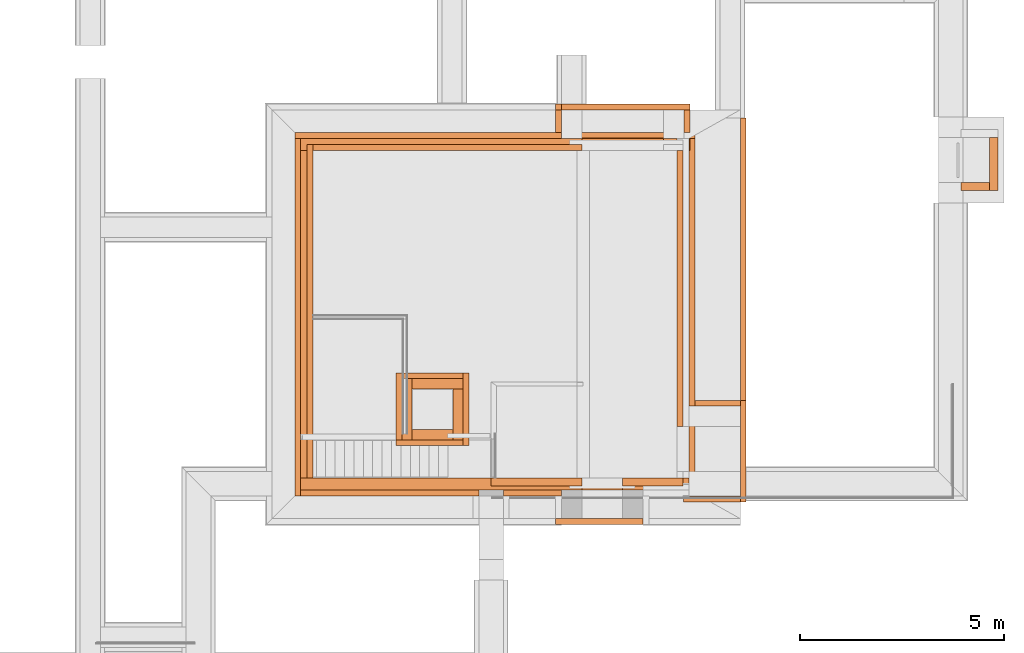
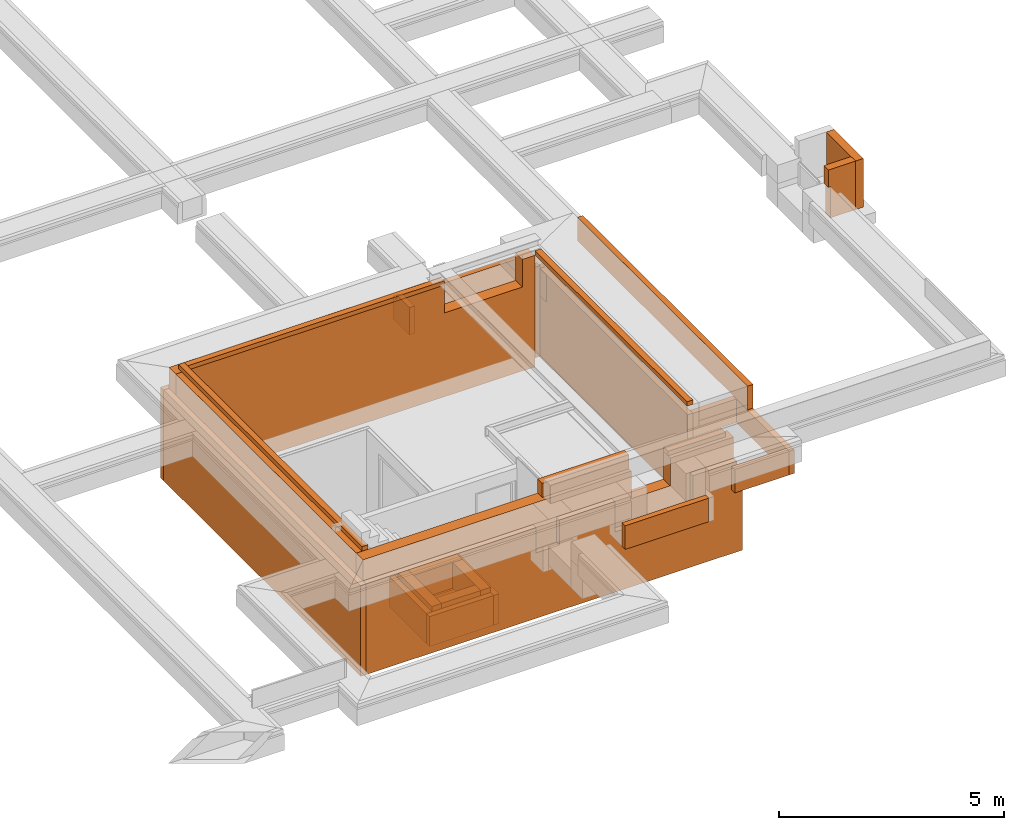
# One storey, part 9 of 11: 30 proxies, 2 openings.
"""IFC2X3 building model written with IfcOpenShell, lengths in millimetres."""

from ifc_helpers import new_model, entity, si_unit, converted_unit, derived_unit, money_unit, direction, frame, origin_with_axes, place, context, subcontext, project, spatial, faceted_brep, material, type_object, element, save


model = new_model("IFC2X3")

# Units and contexts
model_context = context("Model", 3, precision=0.01, world=origin_with_axes(), true_north=direction((0.0, 1.0)))
body_context = subcontext(model_context, "Body", "Model", "MODEL_VIEW")
ifc_project = project(units=[si_unit("LENGTHUNIT", "METRE", prefix="MILLI"), si_unit("AREAUNIT", "SQUARE_METRE"), si_unit("VOLUMEUNIT", "CUBIC_METRE"), converted_unit("PLANEANGLEUNIT", "DEGREE", entity("IfcPlaneAngleMeasure", 0.0174532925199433), si_unit("PLANEANGLEUNIT", "RADIAN"), dimensions=[0, 0, 0, 0, 0, 0, 0]), money_unit("EUR"), converted_unit("TIMEUNIT", "Year", entity("IfcTimeMeasure", 31556926.0), si_unit("TIMEUNIT", "SECOND"), dimensions=[0, 0, 1, 0, 0, 0, 0]), si_unit("MASSUNIT", "GRAM", prefix="KILO"), si_unit("THERMODYNAMICTEMPERATUREUNIT", "DEGREE_CELSIUS"), si_unit("LUMINOUSINTENSITYUNIT", "LUMEN"), si_unit("ENERGYUNIT", "JOULE", prefix="MEGA"), derived_unit("THERMALCONDUCTANCEUNIT", [(si_unit("POWERUNIT", "WATT"), 1), (si_unit("LENGTHUNIT", "METRE"), -1), (si_unit("THERMODYNAMICTEMPERATUREUNIT", "KELVIN"), -1)]), derived_unit("SPECIFICHEATCAPACITYUNIT", [(si_unit("ENERGYUNIT", "JOULE"), 1), (si_unit("MASSUNIT", "GRAM", prefix="KILO"), -1), (si_unit("THERMODYNAMICTEMPERATUREUNIT", "KELVIN"), -1)]), derived_unit("MASSDENSITYUNIT", [(si_unit("MASSUNIT", "GRAM", prefix="KILO"), 1), (si_unit("VOLUMEUNIT", "CUBIC_METRE"), -1)])], contexts=[model_context])

# Site, building, storey
site_placement = place(None, origin_with_axes())
site = spatial("IfcSite", under=ifc_project, at=site_placement, Name="Site", CompositionType="ELEMENT")
building_placement = place(site_placement, origin_with_axes())
building = spatial("IfcBuilding", under=site, at=building_placement, Name="Naam gebouw", CompositionType="ELEMENT")
storey_placement = place(building_placement, frame((0.0, 0.0, -3060.0), z_axis=(0.0, 0.0, 1.0), x_axis=(1.0, 0.0, 0.0)))
storey = spatial("IfcBuildingStorey", under=building, at=storey_placement, Name="Kelder", CompositionType="ELEMENT", Elevation=-3060.0)

# Proxy, opening
ifc_material_1 = material(Name="Beton gewapend C")
building_element_proxy_type_1 = type_object("IfcBuildingElementProxyType", Name="Beton gewapend C 300", PredefinedType="NOTDEFINED")
proxy_1_placement = place(storey_placement, frame((14000.00000000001, 4379.999999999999, -449.9999999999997), z_axis=(0.0, 0.0, 1.0), x_axis=(1.0, 0.0, 0.0)))
proxy_1 = element("IfcBuildingElementProxy", 1, at=proxy_1_placement, inside=storey, type_object=building_element_proxy_type_1, material=ifc_material_1, Name="f2- Met cement gebonden producten (alle vulmiddelen)_Wand-x", context=body_context, shape_type="Brep", body=[
    faceted_brep([(9500.000000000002, 300.0000000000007, 0.0), (0.0, 299.9999999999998, 0.0), (0.0, 299.9999999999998, 3025.0), (6875.000052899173, 300.0000000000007, 3025.0), (6875.000052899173, 300.0000000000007, 2275.0), (7875.000052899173, 300.0000000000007, 2275.0), (7875.000052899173, 300.0000000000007, 3025.0), (9500.000000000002, 300.0000000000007, 3025.0), (9500.000000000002, 300.0000000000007, 2375.0), (9500.000000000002, 300.0000000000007, 1735.0), (9500.000000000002, 0.0, 0.0), (0.0, 0.0, 0.0), (0.0, 0.0, 3025.0), (6875.000052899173, 0.0, 3025.0), (6875.000052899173, 0.0, 2275.0), (7875.000052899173, 0.0, 2275.0), (7875.000052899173, 0.0, 3025.0), (9500.000000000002, 0.0, 3025.0), (9500.000000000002, 0.0, 2375.0), (9500.000000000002, 0.0, 1735.0)], [[[0, 1, 2, 3, 4, 5, 6, 7, 8, 9]], [[1, 0, 10, 11]], [[2, 1, 11, 12]], [[13, 3, 2, 12]], [[4, 3, 13, 14]], [[5, 4, 14, 15]], [[16, 6, 5, 15]], [[6, 16, 17, 7]], [[17, 18, 8, 7]], [[19, 9, 8, 18]], [[0, 9, 19, 10]], [[18, 17, 16, 15, 14, 13, 12, 11, 10, 19]]]),
])
opening_1_placement = place(proxy_1_placement, frame((-14000.00000000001, -4379.999999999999, 3510.0), z_axis=(0.0, 0.0, 1.0), x_axis=(1.0, 0.0, 0.0)))
element("IfcOpeningElement", 2, at=opening_1_placement, cuts=proxy_1, Name="_Opening-x", context=body_context, shape_type="Brep", body=[
    faceted_brep([(20875.00005289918, 3939.999999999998, -1235.0), (20875.00005289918, 3939.999999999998, -484.9999999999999), (20875.00005289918, 4979.999999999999, -484.9999999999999), (20875.00005289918, 4979.999999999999, -1235.0), (21875.00005289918, 3939.999999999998, -1235.0), (21875.00005289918, 3939.999999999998, -484.9999999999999), (21875.00005289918, 4979.999999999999, -484.9999999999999), (21875.00005289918, 4979.999999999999, -1235.0)], [[[0, 1, 2, 3]], [[0, 4, 5, 1]], [[1, 5, 6, 2]], [[3, 2, 6, 7]], [[4, 0, 3, 7]], [[5, 4, 7, 6]]]),
])

proxy_2_placement = place(storey_placement, frame((23500.00000000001, 12980.0, -449.9999999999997), z_axis=(0.0, 0.0, 1.0), x_axis=(-1.0, 0.0, 0.0)))
proxy_2 = element("IfcBuildingElementProxy", 3, at=proxy_2_placement, inside=storey, type_object=building_element_proxy_type_1, material=ifc_material_1, Name="f2- Met cement gebonden producten (alle vulmiddelen)_Wand-x", context=body_context, shape_type="Brep", body=[
    faceted_brep([(624.9999471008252, 300.0000000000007, 3025.0), (300.0000000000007, 300.0000000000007, 3025.0), (300.0000000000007, 0.0, 3025.0), (624.9999471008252, 0.0, 3025.0), (9499.999999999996, 299.9999999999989, 0.0), (300.0000000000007, 300.0000000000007, 0.0), (624.9999471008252, 300.0000000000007, 2275.0), (2624.999947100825, 300.0000000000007, 2275.0), (2624.999947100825, 300.0000000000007, 3025.0), (9499.999999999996, 299.9999999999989, 3025.0), (300.0000000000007, 0.0, 0.0), (9499.999999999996, 0.0, 0.0), (9499.999999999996, 0.0, 3025.0), (2624.999947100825, 0.0, 3025.0), (2624.999947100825, 0.0, 2275.0), (624.9999471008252, 0.0, 2275.0)], [[[0, 1, 2, 3]], [[4, 5, 1, 0, 6, 7, 8, 9]], [[5, 10, 2, 1]], [[3, 2, 10, 11, 12, 13, 14, 15]], [[15, 6, 0, 3]], [[11, 10, 5, 4]], [[7, 6, 15, 14]], [[8, 7, 14, 13]], [[12, 9, 8, 13]], [[11, 4, 9, 12]]]),
])
opening_2_placement = place(proxy_2_placement, frame((23500.00000000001, 12980.0, 3510.0), z_axis=(0.0, 0.0, 1.0), x_axis=(-1.0, 0.0, 0.0)))
element("IfcOpeningElement", 4, at=opening_2_placement, cuts=proxy_2, Name="_Opening-x", context=body_context, shape_type="Brep", body=[
    faceted_brep([(22875.00005289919, 12540.0, -1235.0), (20875.00005289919, 12540.0, -1235.0), (20875.00005289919, 13280.0, -1235.0), (22875.00005289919, 13280.0, -1235.0), (22875.00005289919, 12540.0, -485.0), (20875.00005289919, 12540.0, -485.0), (20875.00005289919, 13280.0, -485.0), (22875.00005289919, 13280.0, -485.0)], [[[0, 1, 2, 3]], [[0, 4, 5, 1]], [[1, 5, 6, 2]], [[3, 2, 6, 7]], [[4, 0, 3, 7]], [[5, 4, 7, 6]]]),
])

# Proxies
proxy_3_placement = place(storey_placement, frame((14000.00000000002, 12980.0, -449.9999999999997), z_axis=(0.0, 0.0, 1.0), x_axis=(0.0, -1.0, 0.0)))
element("IfcBuildingElementProxy", 5, at=proxy_3_placement, inside=storey, type_object=building_element_proxy_type_1, material=ifc_material_1, Name="f2- Met cement gebonden producten (alle vulmiddelen)_Wand-x", context=body_context, shape_type="Brep", body=[
    faceted_brep([(8300.0, 299.9999999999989, 0.0), (299.9999999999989, 300.0000000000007, 0.0), (299.9999999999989, 300.0000000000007, 3025.0), (8300.0, 299.9999999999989, 3025.0), (8300.0, 0.0, 0.0), (299.9999999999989, 0.0, 0.0), (299.9999999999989, 0.0, 3025.0), (8300.0, 0.0, 3025.0)], [[[0, 1, 2, 3]], [[4, 5, 1, 0]], [[5, 6, 2, 1]], [[3, 2, 6, 7]], [[4, 0, 3, 7]], [[7, 6, 5, 4]]]),
])
building_element_proxy_type_2 = type_object("IfcBuildingElementProxyType", Name="Beton gewapend C 150", PredefinedType="NOTDEFINED")
proxy_4_placement = place(storey_placement, frame((14300.00000000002, 12680.0, 2575.0), z_axis=(0.0, 0.0, 1.0), x_axis=(0.0, -1.0, 0.0)))
element("IfcBuildingElementProxy", 6, at=proxy_4_placement, inside=storey, type_object=building_element_proxy_type_2, material=ifc_material_1, Name="f2- Met cement gebonden producten (alle vulmiddelen)_Wand-x", context=body_context, shape_type="Brep", body=[
    faceted_brep([(-150.0000000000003, -150.0000000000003, 119.9999999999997), (8000.0, -150.0000000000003, 119.9999999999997), (8000.0, 0.0, 119.9999999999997), (-150.0000000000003, 0.0, 119.9999999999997), (-150.0000000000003, -150.0000000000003, 0.0), (8000.0, -150.0000000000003, 0.0), (8000.0, 0.0, 0.0), (-150.0000000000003, 0.0, 0.0)], [[[0, 1, 2, 3]], [[4, 5, 1, 0]], [[2, 1, 5, 6]], [[3, 2, 6, 7]], [[4, 0, 3, 7]], [[7, 6, 5, 4]]]),
])
proxy_5_placement = place(storey_placement, frame((23200.00000000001, 5930.000000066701, 2575.0), z_axis=(0.0, 0.0, 1.0), x_axis=(0.0, 1.0, 0.0)))
element("IfcBuildingElementProxy", 7, at=proxy_5_placement, inside=storey, type_object=building_element_proxy_type_2, material=ifc_material_1, Name="f2- Met cement gebonden producten (alle vulmiddelen)_Wand-x", context=body_context, shape_type="Brep", body=[
    faceted_brep([(6749.999999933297, -149.9999999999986, 119.9999999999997), (6749.999999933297, 0.0, 119.9999999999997), (0.0, 0.0, 119.9999999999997), (0.0, -149.9999999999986, 119.9999999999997), (6749.999999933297, -149.9999999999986, 0.0), (6749.999999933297, 0.0, 0.0), (0.0, 0.0, 0.0), (0.0, -149.9999999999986, 0.0)], [[[0, 1, 2, 3]], [[1, 0, 4, 5]], [[1, 5, 6, 2]], [[7, 3, 2, 6]], [[4, 0, 3, 7]], [[5, 4, 7, 6]]]),
])
proxy_6_placement = place(storey_placement, frame((20875.00005289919, 12680.0, 2575.0), z_axis=(0.0, 0.0, 1.0), x_axis=(-1.0, 0.0, 0.0)))
element("IfcBuildingElementProxy", 8, at=proxy_6_placement, inside=storey, type_object=building_element_proxy_type_2, material=ifc_material_1, Name="f2- Met cement gebonden producten (alle vulmiddelen)_Wand-x", context=body_context, shape_type="Brep", body=[
    faceted_brep([(6575.00005289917, -150.0000000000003, 119.9999999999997), (6575.00005289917, 0.0, 119.9999999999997), (0.0, 0.0, 119.9999999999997), (0.0, -150.0000000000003, 119.9999999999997), (6575.00005289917, -150.0000000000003, 0.0), (6575.00005289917, 0.0, 0.0), (0.0, 0.0, 0.0), (0.0, -150.0000000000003, 0.0)], [[[0, 1, 2, 3]], [[1, 0, 4, 5]], [[1, 5, 6, 2]], [[7, 3, 2, 6]], [[4, 0, 3, 7]], [[5, 4, 7, 6]]]),
])
building_element_proxy_type_3 = type_object("IfcBuildingElementProxyType", Name="Beton gewapend C 200", PredefinedType="NOTDEFINED")
proxy_7_placement = place(storey_placement, frame((30849.99999999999, 12999.99778166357, 1725.0), z_axis=(0.0, 0.0, 1.0), x_axis=(0.0, -1.0, 0.0)))
element("IfcBuildingElementProxy", 9, at=proxy_7_placement, inside=storey, type_object=building_element_proxy_type_3, material=ifc_material_1, Name="f2- Met cement gebonden producten (alle vulmiddelen)_Wand-x", context=body_context, shape_type="Brep", body=[
    faceted_brep([(1299.999999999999, 199.9999999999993, 0.0), (1299.999999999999, 0.0, 0.0), (0.0, 0.0, 0.0), (0.0, 199.9999999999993, 0.0), (1299.999999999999, 199.9999999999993, 1315.0), (1299.999999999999, 0.0, 1315.0), (0.0, 0.0, 1315.0), (0.0, 199.9999999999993, 1315.0)], [[[0, 1, 2, 3]], [[1, 0, 4, 5]], [[1, 5, 6, 2]], [[7, 3, 2, 6]], [[4, 0, 3, 7]], [[5, 4, 7, 6]]]),
])
proxy_8_placement = place(storey_placement, frame((30849.99999999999, 11899.99778166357, 1725.0), z_axis=(0.0, 0.0, 1.0), x_axis=(-1.0, 0.0, 0.0)))
element("IfcBuildingElementProxy", 10, at=proxy_8_placement, inside=storey, type_object=building_element_proxy_type_3, material=ifc_material_1, Name="f2- Met cement gebonden producten (alle vulmiddelen)_Wand-x", context=body_context, shape_type="Brep", body=[
    faceted_brep([(0.0, 0.0, 0.0), (649.9999999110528, 0.0, 0.0), (649.9999999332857, 0.0, 849.9999999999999), (699.9999999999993, 0.0, 849.9999999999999), (699.9999999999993, 0.0, 1315.0), (0.0, 0.0, 1315.0), (0.0, 199.9999999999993, 0.0), (649.9999999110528, 199.9999999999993, 0.0), (649.9999999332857, 199.9999999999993, 849.9999999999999), (699.9999999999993, 199.9999999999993, 849.9999999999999), (699.9999999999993, 199.9999999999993, 1315.0), (0.0, 199.9999999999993, 1315.0)], [[[0, 1, 2, 3, 4, 5]], [[6, 7, 1, 0]], [[2, 1, 7, 8]], [[8, 9, 3, 2]], [[10, 4, 3, 9]], [[10, 11, 5, 4]], [[0, 5, 11, 6]], [[8, 7, 6, 11, 10, 9]]]),
])
proxy_9_placement = place(storey_placement, frame((21875.00005289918, 4679.999999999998, 2575.0), z_axis=(0.0, 0.0, 1.0), x_axis=(1.0, 0.0, 0.0)))
element("IfcBuildingElementProxy", 11, at=proxy_9_placement, inside=storey, type_object=building_element_proxy_type_3, material=ifc_material_1, Name="f2- Met cement gebonden producten (alle vulmiddelen)_Wand-x", context=body_context, shape_type="Brep", body=[
    faceted_brep([(1474.999947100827, -200.0000000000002, 119.9999999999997), (1474.999947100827, 0.0, 119.9999999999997), (0.0, 0.0, 119.9999999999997), (0.0, -200.0000000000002, 119.9999999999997), (1474.999947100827, -200.0000000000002, 0.0), (1474.999947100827, 0.0, 0.0), (0.0, 0.0, 0.0), (0.0, -200.0000000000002, 0.0)], [[[0, 1, 2, 3]], [[1, 0, 4, 5]], [[1, 5, 6, 2]], [[7, 3, 2, 6]], [[4, 0, 3, 7]], [[5, 4, 7, 6]]]),
])
proxy_10_placement = place(storey_placement, frame((20875.00006109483, 4680.00001862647, 2575.0), z_axis=(0.0, 0.0, 1.0), x_axis=(-1.0, 0.0, 0.0)))
element("IfcBuildingElementProxy", 12, at=proxy_10_placement, inside=storey, type_object=building_element_proxy_type_3, material=ifc_material_1, Name="f2- Met cement gebonden producten (alle vulmiddelen)_Wand-x", context=body_context, shape_type="Brep", body=[
    faceted_brep([(0.0, 200.0000000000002, 0.0), (2225.000573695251, 200.0000000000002, 0.0), (2225.000573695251, 0.0, 0.0), (0.0, 0.0, 0.0), (0.0, 200.0000000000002, 384.9999999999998), (2225.000573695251, 200.0000000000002, 384.9999999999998), (2225.000573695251, 0.0, 384.9999999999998), (0.0, 0.0, 384.9999999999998)], [[[0, 1, 2, 3]], [[4, 5, 1, 0]], [[2, 1, 5, 6]], [[3, 2, 6, 7]], [[4, 0, 3, 7]], [[7, 6, 5, 4]]]),
])
ifc_material_2 = material(Name="Beton gewapend prefab")
building_element_proxy_type_4 = type_object("IfcBuildingElementProxyType", Name="Beton gewapend prefab 250", PredefinedType="NOTDEFINED")
proxy_11_placement = place(storey_placement, frame((16724.66158011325, 5854.999999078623, -1249.999999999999), z_axis=(0.0, 0.0, 1.0), x_axis=(0.0, 1.0, 0.0)))
element("IfcBuildingElementProxy", 13, at=proxy_11_placement, inside=storey, type_object=building_element_proxy_type_4, material=ifc_material_2, Name="f2- Met cement gebonden producten (alle vulmiddelen)_Wand-x", context=body_context, shape_type="Brep", body=[
    faceted_brep([(-250.0, 0.0, 949.9999999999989), (-250.0, 0.0, 250.0), (1250.000000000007, 0.0, 250.0), (1250.000000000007, 0.0, 949.9999999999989), (1000.000000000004, 0.0, 949.9999999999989), (0.0, 0.0, 949.9999999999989), (-250.0, 250.0, 949.9999999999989), (-250.0, 250.0, 250.0), (1250.000000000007, 250.0, 250.0), (1250.000000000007, 250.0, 949.9999999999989)], [[[0, 1, 2, 3, 4, 5]], [[6, 7, 1, 0]], [[7, 8, 2, 1]], [[3, 2, 8, 9]], [[5, 4, 3, 9, 6, 0]], [[9, 8, 7, 6]]]),
])
proxy_12_placement = place(storey_placement, frame((16724.66158011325, 6854.99999907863, -1249.999999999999), z_axis=(0.0, 0.0, 1.0), x_axis=(1.0, 0.0, 0.0)))
element("IfcBuildingElementProxy", 14, at=proxy_12_placement, inside=storey, type_object=building_element_proxy_type_4, material=ifc_material_2, Name="f2- Met cement gebonden producten (alle vulmiddelen)_Wand-x", context=body_context, shape_type="Brep", body=[
    faceted_brep([(1250.000000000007, 0.0, 949.9999999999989), (1250.000000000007, 0.0, 250.0), (1250.000000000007, 250.0, 250.0), (1250.000000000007, 250.0, 949.9999999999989), (0.0, 0.0, 949.9999999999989), (0.0, 0.0, 250.0), (1000.000000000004, 0.0, 949.9999999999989), (0.0, 250.0, 250.0), (0.0, 250.0, 949.9999999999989)], [[[0, 1, 2, 3]], [[4, 5, 1, 0, 6]], [[5, 7, 2, 1]], [[3, 2, 7, 8]], [[6, 0, 3, 8, 4]], [[8, 7, 5, 4]]]),
])
proxy_13_placement = place(storey_placement, frame((17724.66158011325, 5854.999999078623, -1249.999999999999), z_axis=(0.0, 0.0, 1.0), x_axis=(-1.0, 0.0, 0.0)))
element("IfcBuildingElementProxy", 15, at=proxy_13_placement, inside=storey, type_object=building_element_proxy_type_4, material=ifc_material_2, Name="f2- Met cement gebonden producten (alle vulmiddelen)_Wand-x", context=body_context, shape_type="Brep", body=[
    faceted_brep([(0.0, 250.0, 949.9999999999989), (0.0, 250.0, 250.0), (0.0, 0.0, 250.0), (0.0, 0.0, 949.9999999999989), (1000.000000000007, 250.0, 949.9999999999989), (1000.000000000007, 250.0, 250.0), (1000.000000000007, 0.0, 250.0), (1000.000000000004, 0.0, 949.9999999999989)], [[[0, 1, 2, 3]], [[4, 5, 1, 0]], [[5, 6, 2, 1]], [[3, 2, 6, 7]], [[4, 0, 3, 7]], [[7, 6, 5, 4]]]),
])
proxy_14_placement = place(storey_placement, frame((17724.66158011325, 6854.99999907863, -1249.999999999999), z_axis=(0.0, 0.0, 1.0), x_axis=(0.0, -1.0, 0.0)))
element("IfcBuildingElementProxy", 16, at=proxy_14_placement, inside=storey, type_object=building_element_proxy_type_4, material=ifc_material_2, Name="f2- Met cement gebonden producten (alle vulmiddelen)_Wand-x", context=body_context, shape_type="Brep", body=[
    faceted_brep([(1250.000000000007, 250.0, 949.9999999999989), (1250.000000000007, 250.0, 250.0), (0.0, 250.0, 250.0), (0.0, 250.0, 949.9999999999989), (1250.000000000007, 0.0, 949.9999999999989), (1250.000000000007, 0.0, 250.0), (0.0, 0.0, 250.0), (0.0, 0.0, 949.9999999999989), (1000.000000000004, 0.0, 949.9999999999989)], [[[0, 1, 2, 3]], [[4, 5, 1, 0]], [[5, 6, 2, 1]], [[3, 2, 6, 7]], [[4, 0, 3, 7, 8]], [[7, 6, 5, 4, 8]]]),
])
ifc_material_3 = material(Name="Isolatie - Kunststof hard")
building_element_proxy_type_5 = type_object("IfcBuildingElementProxyType", Name="Isolatie - Kunststof hard 140", PredefinedType="NOTDEFINED")
proxy_15_placement = place(storey_placement, frame((13860.00000000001, 13120.0, -449.9999999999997), z_axis=(0.0, 0.0, 1.0), x_axis=(0.0, -1.0, 0.0)))
element("IfcBuildingElementProxy", 17, at=proxy_15_placement, inside=storey, type_object=building_element_proxy_type_5, material=ifc_material_3, Name="n7 Kunststof met cellenstructuur_Wand-x", context=body_context, shape_type="Brep", body=[
    faceted_brep([(8880.000000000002, 139.9999999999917, 0.0), (8880.0, 0.0, 0.0), (140.0000000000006, 0.0, 0.0), (140.0000000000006, 140.0000000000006, 0.0), (8880.000000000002, 139.9999999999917, 2455.0), (8880.0, 0.0, 2455.0), (140.0000000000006, 0.0, 2455.0), (140.0000000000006, 140.0000000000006, 2455.0)], [[[0, 1, 2, 3]], [[1, 0, 4, 5]], [[1, 5, 6, 2]], [[7, 3, 2, 6]], [[4, 0, 3, 7]], [[5, 4, 7, 6]]]),
])
proxy_16_placement = place(storey_placement, frame((23640.00000000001, 13120.0, -449.9999999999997), z_axis=(0.0, 0.0, 1.0), x_axis=(-1.0, 0.0, 0.0)))
element("IfcBuildingElementProxy", 18, at=proxy_16_placement, inside=storey, type_object=building_element_proxy_type_5, material=ifc_material_3, Name="n7 Kunststof met cellenstructuur_Wand-x", context=body_context, shape_type="Brep", body=[
    faceted_brep([(3264.999881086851, 130.4320942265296, 1775.0), (264.999881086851, 130.4320942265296, 1775.0), (264.9999471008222, 130.4320942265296, 1635.0), (3264.999947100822, 130.4320942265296, 1635.0), (3264.999881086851, 139.9999649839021, 1775.0), (264.999881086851, 139.9999649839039, 1775.0), (264.999881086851, 0.0, 1775.0), (264.9999471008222, 0.0, 1635.0), (3264.999947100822, 0.0, 1635.0), (3264.999881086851, 0.0, 1775.0), (3264.999881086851, 0.0, 2455.0), (3264.999881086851, 139.9999649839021, 2455.0), (140.0000000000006, 139.9999999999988, 2385.0), (140.0000000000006, 140.0000000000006, 2455.0), (264.999881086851, 139.9999649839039, 2455.0), (9780.000000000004, 139.9999999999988, 2455.0), (9780.000000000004, 139.9999999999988, 0.0), (0.0, 140.0000000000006, 0.0), (0.0, 140.0000000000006, 2385.0), (264.999881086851, 0.0, 2455.0), (0.0, 0.0, 2385.0), (0.0, 0.0, 0.0), (9780.000000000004, 0.0, 0.0), (9780.000000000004, 0.0, 2455.0), (140.0000000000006, 0.0, 2455.0), (140.0000000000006, 0.0, 2385.0)], [[[0, 1, 2, 3]], [[0, 4, 5, 1]], [[1, 6, 7, 2]], [[3, 2, 7, 8]], [[9, 0, 3, 8]], [[10, 11, 4, 0, 9]], [[12, 13, 14, 5, 4, 11, 15, 16, 17, 18]], [[19, 6, 1, 5, 14]], [[20, 21, 22, 23, 10, 9, 8, 7, 6, 19, 24, 25]], [[11, 10, 23, 15]], [[13, 12, 25, 24]], [[19, 14, 13, 24]], [[15, 23, 22, 16]], [[21, 17, 16, 22]], [[17, 21, 20, 18]], [[25, 12, 18, 20]]]),
])
proxy_17_placement = place(storey_placement, frame((13860.00000000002, 4239.999999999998, -449.9999999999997), z_axis=(0.0, 0.0, 1.0), x_axis=(1.0, 0.0, 0.0)))
element("IfcBuildingElementProxy", 19, at=proxy_17_placement, inside=storey, type_object=building_element_proxy_type_5, material=ifc_material_3, Name="n7 Kunststof met cellenstructuur_Wand-x", context=body_context, shape_type="Brep", body=[
    faceted_brep([(9639.999999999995, 0.0, 2455.0), (9639.999999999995, 139.999996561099, 2455.0), (8515.000073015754, 139.9999689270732, 2455.0), (8515.000073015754, 0.0, 2455.0), (9639.999999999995, 0.0, 1735.0), (9639.999999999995, 140.0000000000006, 1735.0), (6515.000064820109, 139.9999410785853, 1635.0), (8515.000142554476, 139.9998963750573, 1635.0), (8515.000073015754, 139.9999689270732, 1775.0), (9779.999999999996, 140.0000000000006, 1735.0), (9779.999999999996, 140.0000000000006, 0.0), (140.0000000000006, 139.9999999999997, 0.0), (140.0000000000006, 140.0000000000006, 2455.0), (4495.000002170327, 140.0000275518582, 2455.0), (4495.000002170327, 140.0000275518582, 1775.0), (5095.000002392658, 140.0000275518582, 1775.0), (5095.000002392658, 140.0000275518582, 2455.0), (6514.999995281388, 140.0000136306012, 2455.0), (6514.999995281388, 140.0000136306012, 1775.0), (8515.000073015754, 0.0, 1775.0), (140.0000000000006, 0.0, 0.0), (9779.999999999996, 0.0, 0.0), (9779.999999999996, 0.0, 1735.0), (8515.00013942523, 0.0, 1635.0), (6515.000061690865, 0.0, 1635.0), (6514.999995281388, 0.0, 1775.0), (6514.999995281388, 0.0, 2455.0), (5095.000002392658, 0.0, 2455.0), (5095.000002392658, 0.0, 1775.0), (4495.000002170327, 0.0, 1775.0), (4495.000002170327, 0.0, 2455.0), (140.0000000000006, 0.0, 2455.0)], [[[0, 1, 2, 3]], [[1, 0, 4, 5]], [[6, 7, 8, 2, 1, 5, 9, 10, 11, 12, 13, 14, 15, 16, 17, 18]], [[3, 2, 8, 19]], [[20, 21, 22, 4, 0, 3, 19, 23, 24, 25, 26, 27, 28, 29, 30, 31]], [[5, 4, 22, 9]], [[24, 23, 7, 6]], [[19, 8, 7, 23]], [[21, 10, 9, 22]], [[20, 11, 10, 21]], [[20, 31, 12, 11]], [[30, 13, 12, 31]], [[14, 13, 30, 29]], [[15, 14, 29, 28]], [[27, 16, 15, 28]], [[16, 27, 26, 17]], [[18, 17, 26, 25]], [[18, 25, 24, 6]]]),
])
proxy_18_placement = place(storey_placement, frame((23640.00000000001, 4239.999999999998, -449.9999999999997), z_axis=(0.0, 0.0, 1.0), x_axis=(0.0, 1.0, 0.0)))
element("IfcBuildingElementProxy", 20, at=proxy_18_placement, inside=storey, type_object=building_element_proxy_type_5, material=ifc_material_3, Name="n7 Kunststof met cellenstructuur_Wand-x", context=body_context, shape_type="Brep", body=[
    faceted_brep([(8740.0, 0.0, 2385.0), (8740.0, 140.0000000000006, 2385.0), (2190.000000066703, 140.0000000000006, 2385.0), (2190.000000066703, 0.0, 2385.0), (8740.0, 0.0, 0.0), (8740.0, 140.0000000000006, 0.0), (139.9999999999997, 140.0000000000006, 1735.0), (2190.000000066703, 140.0000000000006, 1735.0), (2190.000000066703, 140.0000000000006, 1875.0), (139.9999999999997, 140.0000000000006, 0.0), (2190.000000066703, 0.0, 1875.0), (2190.000000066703, 0.0, 1735.0), (139.9999999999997, 0.0, 1735.0), (139.9999999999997, 0.0, 0.0)], [[[0, 1, 2, 3]], [[1, 0, 4, 5]], [[6, 7, 8, 2, 1, 5, 9]], [[2, 8, 10, 3]], [[4, 0, 3, 10, 11, 12, 13]], [[5, 4, 13, 9]], [[12, 11, 7, 6]], [[7, 11, 10, 8]], [[12, 6, 9, 13]]]),
])
proxy_19_placement = place(storey_placement, frame((17974.66158011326, 5604.999999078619, -1249.999999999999), z_axis=(0.0, 0.0, 1.0), x_axis=(-1.0, 0.0, 0.0)))
element("IfcBuildingElementProxy", 21, at=proxy_19_placement, inside=storey, type_object=building_element_proxy_type_5, material=ifc_material_3, Name="n7 Kunststof met cellenstructuur_Wand-x", context=body_context, shape_type="Brep", body=[
    faceted_brep([(1640.000000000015, 0.0, 0.0), (1640.000000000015, 0.0, 809.9999999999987), (0.0, 0.0, 809.9999999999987), (0.0, 0.0, 0.0), (1640.000000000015, 139.9999999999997, 0.0), (1640.000000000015, 139.9999999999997, 809.9999999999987), (0.0, 139.9999999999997, 809.9999999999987), (0.0, 139.9999999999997, 0.0)], [[[0, 1, 2, 3]], [[4, 5, 1, 0]], [[5, 6, 2, 1]], [[3, 2, 6, 7]], [[7, 4, 0, 3]], [[7, 6, 5, 4]]]),
])
proxy_20_placement = place(storey_placement, frame((16474.66158011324, 5604.999999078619, -1249.999999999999), z_axis=(0.0, 0.0, 1.0), x_axis=(0.0, 1.0, 0.0)))
element("IfcBuildingElementProxy", 22, at=proxy_20_placement, inside=storey, type_object=building_element_proxy_type_5, material=ifc_material_3, Name="n7 Kunststof met cellenstructuur_Wand-x", context=body_context, shape_type="Brep", body=[
    faceted_brep([(1640.000000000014, 140.0000000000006, 0.0), (1640.000000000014, 140.0000000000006, 809.9999999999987), (1640.000000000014, 0.0, 809.9999999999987), (1640.000000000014, 0.0, 0.0), (0.0, 140.0000000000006, 0.0), (0.0, 140.0000000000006, 809.9999999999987), (0.0, 0.0, 809.9999999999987), (0.0, 0.0, 0.0)], [[[0, 1, 2, 3]], [[4, 5, 1, 0]], [[5, 6, 2, 1]], [[3, 2, 6, 7]], [[4, 0, 3, 7]], [[7, 6, 5, 4]]]),
])
proxy_21_placement = place(storey_placement, frame((17974.66158011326, 7104.999999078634, -1249.999999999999), z_axis=(0.0, 0.0, 1.0), x_axis=(0.0, -1.0, 0.0)))
element("IfcBuildingElementProxy", 23, at=proxy_21_placement, inside=storey, type_object=building_element_proxy_type_5, material=ifc_material_3, Name="n7 Kunststof met cellenstructuur_Wand-x", context=body_context, shape_type="Brep", body=[
    faceted_brep([(-139.9999999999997, 0.0, 0.0), (-139.9999999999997, 0.0, 809.9999999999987), (-139.9999999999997, 140.0000000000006, 809.9999999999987), (-139.9999999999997, 140.0000000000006, 0.0), (1640.000000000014, 0.0, 0.0), (1640.000000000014, 0.0, 809.9999999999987), (1640.000000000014, 140.0000000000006, 809.9999999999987), (1640.000000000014, 140.0000000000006, 0.0)], [[[0, 1, 2, 3]], [[4, 5, 1, 0]], [[5, 6, 2, 1]], [[3, 2, 6, 7]], [[3, 7, 4, 0]], [[7, 6, 5, 4]]]),
])
proxy_22_placement = place(storey_placement, frame((24750.00000000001, 6430.000000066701, 1285.0), z_axis=(0.0, 0.0, 1.0), x_axis=(0.0, -1.0, 0.0)))
element("IfcBuildingElementProxy", 24, at=proxy_22_placement, inside=storey, type_object=building_element_proxy_type_5, material=ifc_material_3, Name="n7 Kunststof met cellenstructuur_Wand-x", context=body_context, shape_type="Brep", body=[
    faceted_brep([(2340.000000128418, 140.0000000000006, 0.0), (2340.000000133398, 0.0, 0.0), (-139.9999999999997, 0.0, 0.0), (-139.9999999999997, 140.0000000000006, 0.0), (2340.000000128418, 140.0000000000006, 640.0000000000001), (2340.000000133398, 0.0, 640.0000000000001), (-139.9999999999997, 0.0, 640.0000000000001), (-139.9999999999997, 140.0000000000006, 640.0000000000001)], [[[0, 1, 2, 3]], [[1, 0, 4, 5]], [[1, 5, 6, 2]], [[7, 3, 2, 6]], [[4, 0, 3, 7]], [[5, 4, 7, 6]]]),
])
proxy_23_placement = place(storey_placement, frame((24750.00000000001, 5930.000000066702, 1935.0), z_axis=(0.0, 0.0, 1.0), x_axis=(0.0, 1.0, 0.0)))
element("IfcBuildingElementProxy", 25, at=proxy_23_placement, inside=storey, type_object=building_element_proxy_type_5, material=ifc_material_3, Name="n7 Kunststof met cellenstructuur_Wand-x", context=body_context, shape_type="Brep", body=[
    faceted_brep([(0.0, -140.0000000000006, 640.0000000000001), (7549.999999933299, -140.0000000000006, 640.0000000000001), (7549.999999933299, 0.0, 640.0000000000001), (0.0, 0.0, 640.0000000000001), (0.0, -140.0000000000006, 0.0), (7549.999999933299, -140.0000000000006, 0.0), (7549.999999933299, 0.0, 0.0), (0.0, 0.0, 0.0)], [[[0, 1, 2, 3]], [[4, 5, 1, 0]], [[2, 1, 5, 6]], [[3, 2, 6, 7]], [[4, 0, 3, 7]], [[7, 6, 5, 4]]]),
])
proxy_24_placement = place(storey_placement, frame((16474.66158011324, 7104.999999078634, -1249.999999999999), z_axis=(0.0, 0.0, 1.0), x_axis=(1.0, 0.0, 0.0)))
element("IfcBuildingElementProxy", 26, at=proxy_24_placement, inside=storey, type_object=building_element_proxy_type_5, material=ifc_material_3, Name="n7 Kunststof met cellenstructuur_Wand-x", context=body_context, shape_type="Brep", body=[
    faceted_brep([(0.0, 139.9999999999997, 0.0), (0.0, 139.9999999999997, 809.9999999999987), (1500.000000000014, 140.0000000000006, 809.9999999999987), (1500.000000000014, 139.9999999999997, 0.0), (0.0, 0.0, 0.0), (0.0, 0.0, 809.9999999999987), (1500.000000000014, 0.0, 809.9999999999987), (1500.000000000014, 0.0, 0.0)], [[[0, 1, 2, 3]], [[4, 5, 1, 0]], [[5, 6, 2, 1]], [[3, 2, 6, 7]], [[0, 3, 7, 4]], [[7, 6, 5, 4]]]),
])
proxy_25_placement = place(storey_placement, frame((24750.00000000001, 4229.999999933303, 1285.0), z_axis=(0.0, 0.0, 1.0), x_axis=(-1.0, 0.0, 0.0)))
element("IfcBuildingElementProxy", 27, at=proxy_25_placement, inside=storey, type_object=building_element_proxy_type_5, material=ifc_material_3, Name="n7 Kunststof met cellenstructuur_Wand-x", context=body_context, shape_type="Brep", body=[
    faceted_brep([(1390.000000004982, 139.999999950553, 0.0), (1390.0, -4.944666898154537e-08, 0.0), (0.0, 0.0, 0.0), (4.980904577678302e-09, 139.9999999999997, 0.0), (1390.000000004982, 139.999999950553, 640.0000000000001), (1390.0, -4.944666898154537e-08, 640.0000000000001), (0.0, 0.0, 640.0000000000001), (4.980904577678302e-09, 139.9999999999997, 640.0000000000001)], [[[0, 1, 2, 3]], [[1, 0, 4, 5]], [[1, 5, 6, 2]], [[7, 3, 2, 6]], [[4, 0, 3, 7]], [[5, 4, 7, 6]]]),
])
proxy_26_placement = place(storey_placement, frame((24750.00000000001, 6430.000000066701, 1285.0), z_axis=(0.0, 0.0, 1.0), x_axis=(-1.0, 0.0, 0.0)))
element("IfcBuildingElementProxy", 28, at=proxy_26_placement, inside=storey, type_object=building_element_proxy_type_5, material=ifc_material_3, Name="n7 Kunststof met cellenstructuur_Wand-x", context=body_context, shape_type="Brep", body=[
    faceted_brep([(1110.0, -139.9999999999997, 0.0), (1110.0, -139.9999999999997, 640.0000000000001), (0.0, -139.9999999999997, 640.0000000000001), (0.0, -139.9999999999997, 0.0), (1110.0, 0.0, 640.0000000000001), (1110.0, 0.0, 0.0), (0.0, 0.0, 640.0000000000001), (0.0, 0.0, 0.0)], [[[0, 1, 2, 3]], [[4, 1, 0, 5]], [[1, 4, 6, 2]], [[3, 2, 6, 7]], [[5, 0, 3, 7]], [[4, 5, 7, 6]]]),
])
proxy_27_placement = place(storey_placement, frame((20375.00005289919, 12980.0, 1185.0), z_axis=(0.0, 0.0, 1.0), x_axis=(0.0, 1.0, 0.0)))
element("IfcBuildingElementProxy", 29, at=proxy_27_placement, inside=storey, type_object=building_element_proxy_type_5, material=ifc_material_3, Name="n7 Kunststof met cellenstructuur_Wand-x", context=body_context, shape_type="Brep", body=[
    faceted_brep([(840.0000556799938, 140.0000000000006, 0.0), (840.0000556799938, 140.0000000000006, 640.0000000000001), (840.0000556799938, 0.0, 640.0000000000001), (840.0000556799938, 0.0, 0.0), (700.0000556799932, 140.0000000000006, 740.0000000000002), (700.0000556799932, 140.0000000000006, 640.0000000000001), (140.0000000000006, 140.0000000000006, 0.0), (140.0000000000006, 140.0000000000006, 740.0000000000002), (700.0000556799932, 0.0, 640.0000000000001), (700.0000556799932, 0.0, 740.0000000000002), (140.0000000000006, 0.0, 740.0000000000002), (140.0000000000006, 0.0, 0.0)], [[[0, 1, 2, 3]], [[4, 5, 1, 0, 6, 7]], [[5, 8, 2, 1]], [[2, 8, 9, 10, 11, 3]], [[6, 0, 3, 11]], [[5, 4, 9, 8]], [[11, 10, 7, 6]], [[10, 9, 4, 7]]]),
])
proxy_28_placement = place(storey_placement, frame((20375.00005289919, 13680.00005567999, 1185.0), z_axis=(0.0, 0.0, 1.0), x_axis=(1.0, 0.0, 0.0)))
element("IfcBuildingElementProxy", 30, at=proxy_28_placement, inside=storey, type_object=building_element_proxy_type_5, material=ifc_material_3, Name="n7 Kunststof met cellenstructuur_Wand-x", context=body_context, shape_type="Brep", body=[
    faceted_brep([(0.0, 140.0000000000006, 0.0), (3140.0, 140.0000000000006, 0.0), (3140.0, 0.0, 0.0), (0.0, 0.0, 0.0), (0.0, 140.0000000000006, 640.0000000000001), (3140.0, 140.0000000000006, 640.0000000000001), (3140.0, 0.0, 640.0000000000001), (0.0, 0.0, 640.0000000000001)], [[[0, 1, 2, 3]], [[4, 5, 1, 0]], [[6, 2, 1, 5]], [[3, 2, 6, 7]], [[7, 4, 0, 3]], [[7, 6, 5, 4]]]),
])
proxy_29_placement = place(storey_placement, frame((23375.00005289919, 13680.00005567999, 1185.0), z_axis=(0.0, 0.0, 1.0), x_axis=(0.0, -1.0, 0.0)))
element("IfcBuildingElementProxy", 31, at=proxy_29_placement, inside=storey, type_object=building_element_proxy_type_5, material=ifc_material_3, Name="n7 Kunststof met cellenstructuur_Wand-x", context=body_context, shape_type="Brep", body=[
    faceted_brep([(700.0000556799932, 140.0000000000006, 0.0), (700.0000556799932, 124.9999471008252, 0.0), (700.0000556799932, 124.9999471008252, 740.0000000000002), (700.0000556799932, 140.0000000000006, 740.0000000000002), (1000.000055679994, 140.0000000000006, 0.0), (1000.000055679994, 124.9999471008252, 0.0), (1000.000055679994, 124.9999471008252, 740.0000000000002), (1000.000055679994, 140.0000000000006, 740.0000000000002)], [[[0, 1, 2, 3]], [[4, 5, 1, 0]], [[5, 6, 2, 1]], [[3, 2, 6, 7]], [[4, 0, 3, 7]], [[7, 6, 5, 4]]]),
    faceted_brep([(560.0000556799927, 140.0000000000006, 0.0), (0.0, 140.0000000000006, 0.0), (0.0, 140.0000000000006, 640.0000000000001), (0.0, 140.0000000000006, 740.0000000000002), (560.0000556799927, 140.0000000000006, 740.0000000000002), (560.0000556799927, 0.0, 0.0), (0.0, 0.0, 0.0), (0.0, 0.0, 640.0000000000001), (0.0, 0.0, 740.0000000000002), (560.0000556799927, 0.0, 740.0000000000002)], [[[0, 1, 2, 3, 4]], [[5, 6, 1, 0]], [[6, 7, 2, 1]], [[3, 2, 7, 8]], [[9, 4, 3, 8]], [[5, 0, 4, 9]], [[8, 7, 6, 5, 9]]]),
])
proxy_30_placement = place(storey_placement, frame((22375.00013137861, 3679.999945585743, 1185.0), z_axis=(0.0, 0.0, 1.0), x_axis=(-0.9999999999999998, 2.23517629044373e-08, 0.0)))
element("IfcBuildingElementProxy", 32, at=proxy_30_placement, inside=storey, type_object=building_element_proxy_type_5, material=ifc_material_3, Name="n7 Kunststof met cellenstructuur_Wand-x", context=body_context, shape_type="Brep", body=[
    faceted_brep([(-3.129247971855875e-06, 140.0000000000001, 0.0), (2140.000074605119, 140.0000478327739, 0.0), (2140.000077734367, 4.783277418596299e-05, 0.0), (0.0, 0.0, 0.0), (-3.129247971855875e-06, 140.0000000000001, 640.0000000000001), (2140.000074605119, 140.0000478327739, 640.0000000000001), (2140.000077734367, 4.783277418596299e-05, 640.0000000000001), (0.0, 0.0, 640.0000000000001)], [[[0, 1, 2, 3]], [[4, 5, 1, 0]], [[6, 2, 1, 5]], [[3, 2, 6, 7]], [[7, 4, 0, 3]], [[7, 6, 5, 4]]]),
])

save(model, "model.ifc")
